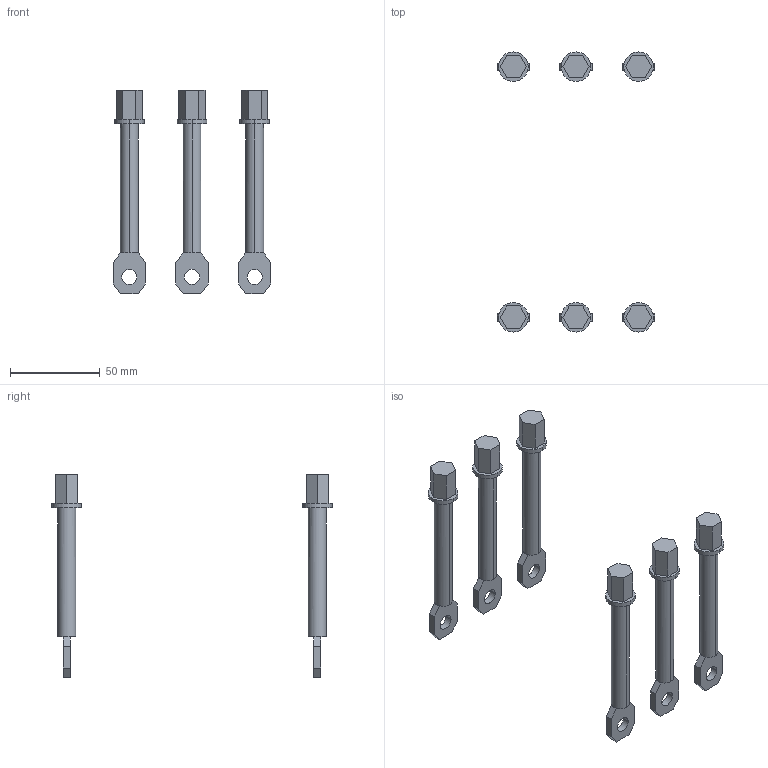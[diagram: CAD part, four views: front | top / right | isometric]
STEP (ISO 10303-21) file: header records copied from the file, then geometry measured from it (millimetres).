
FILE_DESCRIPTION (( 'STEP AP214' ), '1' );
FILE_NAME ('ÊÇÏ OptiMat D100, D160, D250 äëèííûé.STEP', '2023-04-26T11:21:55', ( '' ), ( '' ), 'SwSTEP 2.0', 'SolidWorks 2018', '' );
FILE_SCHEMA (( 'AUTOMOTIVE_DESIGN' ));
Length unit declared in the file: millimetre
Products named in the file (1): ÊÇÏ OptiMat D100, D160, D250 äëèííûé
Bounding box: 88 x 156.5 x 113.7 mm (x, y, z)
Volume: 58067.6 mm3; surface area: 26805.1 mm2
Topology: 6 solids, 6 shells, 180 faces, 432 edges, 276 vertices
Faces by surface type: plane 144, cylinder 36
Entity records: 7259 total; most frequent: DIRECTION 902, CARTESIAN_POINT 889, ORIENTED_EDGE 864, EDGE_CURVE 432, VECTOR 324, LINE 324, AXIS2_PLACEMENT_3D 289, VERTEX_POINT 276
